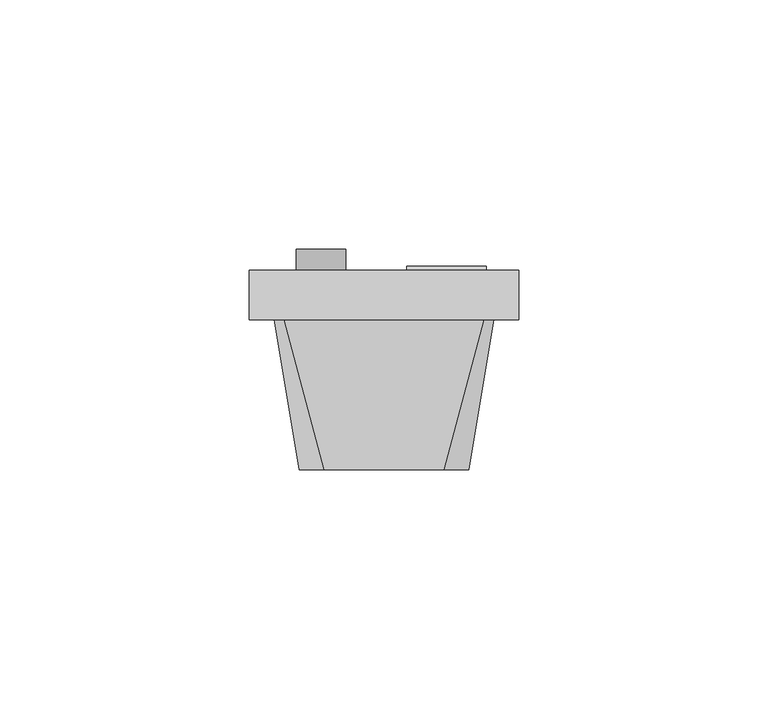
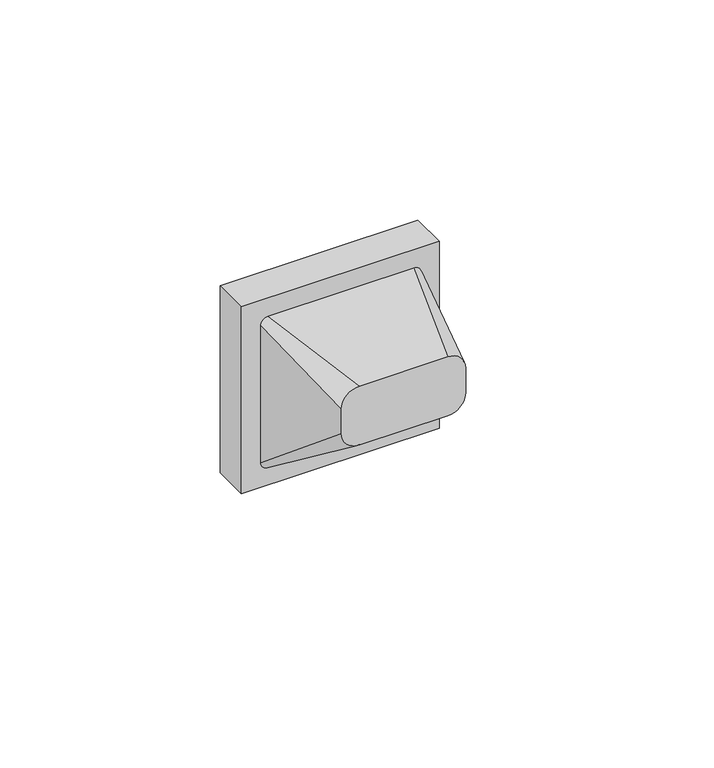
"""IFC4 building model written with IfcOpenShell, lengths in millimetres: proxy geometry, IEK_Brite_Механизм розетки мультимедийной : TV+RJ45-РТВ/РК12-БрА."""

from ifc_helpers import new_model, si_unit, frame, origin, place, context, project, spatial, polyline, circle_curve, outline, extrude, source, transform, mapped, element, save
from ifc_brep_helpers import plane_surface, cylinder_surface, revolved_surface, spline_surface, advanced_brep


def electrical_fixtures_01d7cf26(model_context):
    return source(origin(), model_context, "Body", "SolidModel", [
        extrude(outline(polyline([(0.0, -2.0472767), (0.0, 0.0), (15.9203522, 0.0), (15.9203522, -2.0472767), (0.0, -2.0472767)])), frame((4.6089657, 10.4018122, 8.6669379), z_axis=(0.0, 0.3420201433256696, 0.9396926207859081), x_axis=(1.0, 0.0, 0.0)), (0.0, 0.0, 1.0), 1.1350324),
        advanced_brep(
        [(-27.0, 10.0, 27.0), (27.0, 10.0, 27.0), (27.0, 10.0, -27.0), (-27.0, 10.0, -27.0), (-19.6284308, 10.0, 0.0), (-5.6284308, 10.0, 0.0), (22.4005633, 10.0, -10.479217), (22.4005633, 10.0, 10.625), (20.5293179, 10.0, 10.625), (4.6089657, 10.0, 10.625), (2.4005633, 10.0, 10.625), (2.4005633, 10.0, -10.479217), (-27.0, 0.0, 27.0), (-27.0, 0.0, -27.0), (27.0, 0.0, -27.0), (27.0, 0.0, 27.0), (-5.6284308, 0.0, 0.0), (-19.6284308, 0.0, 0.0), (22.4005633, 4.3684205, -4.8476375), (2.4005633, 4.3684205, -4.8476375), (4.6089657, 5.1767352, -2.626811), (20.5293179, 5.1767352, -2.626811), (20.5293179, 4.2370426, -2.2847909), (4.6089657, 4.2370426, -2.2847909), (4.6089657, 9.0603074, 10.9670201), (20.5293179, 9.0603074, 10.9670201)],
        [
            (0, 1),
            (1, 2),
            (2, 3),
            (3, 0),
            (4, 5, circle_curve(frame((-12.6284308, 10.0, 0.0), z_axis=(0.0, -1.0, 0.0), x_axis=(1.0, 0.0, 0.0)), 7.0)),
            (5, 4, circle_curve(frame((-12.6284308, 10.0, 0.0), z_axis=(0.0, -1.0, 0.0), x_axis=(1.0, 0.0, 0.0)), 7.0)),
            (6, 7),
            (7, 8),
            (8, 9),
            (9, 10),
            (10, 11),
            (11, 6),
            (12, 13),
            (13, 14),
            (14, 15),
            (15, 12),
            (16, 17, circle_curve(frame((-12.6284308, 0.0, 0.0), z_axis=(0.0, 1.0, 0.0), x_axis=(1.0, 0.0, 0.0)), 7.0)),
            (17, 16, circle_curve(frame((-12.6284308, 0.0, 0.0), z_axis=(0.0, 1.0, 0.0), x_axis=(1.0, 0.0, 0.0)), 7.0)),
            (3, 13),
            (12, 0),
            (2, 14),
            (1, 15),
            (16, 5),
            (4, 17),
            (18, 7),
            (6, 18),
            (19, 11),
            (10, 19),
            (19, 18),
            (9, 20),
            (20, 21),
            (21, 8),
            (22, 23),
            (23, 24),
            (24, 25),
            (25, 22),
            (25, 8),
            (21, 22),
            (24, 9),
            (23, 20),
        ],
        [
            plane_surface(frame((-27.0, 10.0, -27.0), z_axis=(0.0, 1.0, 0.0), x_axis=(0.0, 0.0, 1.0))),
            plane_surface(frame((-27.0, 0.0, -27.0), z_axis=(0.0, -1.0, 0.0), x_axis=(0.0, 0.0, -1.0))),
            plane_surface(frame((-27.0, 0.0, 27.0), z_axis=(-1.0, 0.0, 0.0), x_axis=(0.0, 1.0, 0.0))),
            plane_surface(frame((-27.0, 0.0, -27.0), z_axis=(0.0, 0.0, -1.0), x_axis=(0.0, 1.0, 0.0))),
            plane_surface(frame((27.0, 0.0, -27.0), z_axis=(1.0, 0.0, 0.0), x_axis=(0.0, 1.0, 0.0))),
            plane_surface(frame((27.0, 0.0, 27.0), z_axis=(0.0, 0.0, 1.0), x_axis=(0.0, 1.0, 0.0))),
            revolved_surface(polyline([(-5.6284308, 0.0, 0.0), (-5.6284308, 10.0, 0.0)]), (-12.6284308, 10.0, 0.0), (0.0, -1.0, 0.0)),
            plane_surface(frame((22.4005633, 4.3684205, -4.8476375), z_axis=(-1.0, 0.0, 0.0), x_axis=(0.0, 0.7071067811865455, -0.7071067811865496))),
            plane_surface(frame((2.4005633, 4.3684205, -4.8476375), z_axis=(1.0, 0.0, 0.0), x_axis=(0.0, -0.7071067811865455, 0.7071067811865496))),
            plane_surface(frame((22.4005633, 4.3684205, -4.8476375), z_axis=(0.0, 0.7071067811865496, 0.7071067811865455), x_axis=(-1.0, 0.0, 0.0))),
            plane_surface(frame((22.4005633, 10.0, 10.625), z_axis=(0.0, 0.9396926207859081, -0.3420201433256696), x_axis=(-1.0, 0.0, 0.0))),
            plane_surface(frame((20.5293179, 9.0603074, 10.9670201), z_axis=(0.0, 0.9396926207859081, -0.34202014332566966), x_axis=(0.0, 0.34202014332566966, 0.9396926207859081))),
            plane_surface(frame((20.5293179, 4.2370426, -2.2847909), z_axis=(-1.0, 0.0, 0.0), x_axis=(0.0, 0.9396926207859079, -0.3420201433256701))),
            plane_surface(frame((20.5293179, 9.0603074, 10.9670201), z_axis=(0.0, -0.3420201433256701, -0.9396926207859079), x_axis=(0.0, 0.9396926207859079, -0.3420201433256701))),
            plane_surface(frame((4.6089657, 9.0603074, 10.9670201), z_axis=(1.0, 0.0, 0.0), x_axis=(0.0, 0.939692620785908, -0.34202014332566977))),
            plane_surface(frame((4.6089657, 4.2370426, -2.2847909), z_axis=(0.0, 0.3420201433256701, 0.9396926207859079), x_axis=(0.0, 0.9396926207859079, -0.3420201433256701))),
        ],
        [
            (0, [[1, 2, 3, 4], [5, 6], [7, 8, 9, 10, 11, 12]]),
            (1, [[13, 14, 15, 16], [17, 18]]),
            (2, [[-4, 19, -13, 20]]),
            (3, [[-3, 21, -14, -19]]),
            (4, [[-2, 22, -15, -21]]),
            (5, [[-1, -20, -16, -22]]),
            (6, [[23, -5, 24, -17]]),
            (6, [[-23, -18, -24, -6]]),
            (7, [[25, -7, 26]]),
            (8, [[27, -11, 28]]),
            (9, [[-26, -12, -27, 29]]),
            (10, [[-25, -29, -28, -10, 30, 31, 32, -8]]),
            (11, [[33, 34, 35, 36]]),
            (12, [[-36, 37, -32, 38]]),
            (13, [[-35, 39, -9, -37]]),
            (14, [[-34, 40, -30, -39]]),
            (15, [[-33, -38, -31, -40]]),
        ],
    ),
        advanced_brep(
        [(-12.6284308, 13.2712404, 0.0), (-11.7257819, 13.2712404, 0.0), (-13.5310797, 13.2712404, 0.0), (-13.5310797, 0.0, 0.0), (-11.7257819, 0.0, 0.0), (-12.6284308, 0.0, 0.0)],
        [
            (0, 1),
            (1, 2, circle_curve(frame((-12.6284308, 13.2712404, 0.0), z_axis=(0.0, 1.0, 0.0), x_axis=(1.0, 0.0, 0.0)), 0.9026489)),
            (2, 0),
            (2, 1, circle_curve(frame((-12.6284308, 13.2712404, 0.0), z_axis=(0.0, 1.0, 0.0), x_axis=(1.0, 0.0, 0.0)), 0.9026489)),
            (3, 4, circle_curve(frame((-12.6284308, 0.0, 0.0), z_axis=(0.0, -1.0, 0.0), x_axis=(1.0, 0.0, 0.0)), 0.9026489)),
            (4, 5),
            (5, 3),
            (4, 3, circle_curve(frame((-12.6284308, 0.0, 0.0), z_axis=(0.0, -1.0, 0.0), x_axis=(1.0, 0.0, 0.0)), 0.9026489)),
            (1, 4),
            (3, 2),
        ],
        [
            plane_surface(frame((-12.6284308, 13.2712404, 0.0), z_axis=(0.0, 1.0, 0.0), x_axis=(1.0, 0.0, 0.0))),
            plane_surface(frame((-12.6284308, 0.0, 0.0), z_axis=(0.0, -1.0, 0.0), x_axis=(1.0, 0.0, 0.0))),
            cylinder_surface(frame((-12.6284308, 0.0, 0.0), z_axis=(0.0, 1.0, 0.0), x_axis=(1.0, 0.0, 0.0)), 0.9026489),
        ],
        [
            (0, [[1, 2, 3]]),
            (0, [[-3, 4, -1]]),
            (1, [[5, 6, 7]]),
            (1, [[8, -7, -6]]),
            (2, [[-2, 9, -5, 10]]),
            (2, [[-4, -10, -8, -9]]),
        ],
    ),
        advanced_brep(
        [(-17.6284308, 0.0, 0.0), (-7.6284308, 0.0, 0.0), (-8.6079002, 0.0, 0.0), (-16.6489614, 0.0, 0.0), (-8.6079002, 11.0, 0.0), (-16.6489614, 11.0, 0.0), (-8.6079002, 14.1430385, 0.0), (-16.6489614, 14.1430385, 0.0), (-7.6284308, 14.1430385, 0.0), (-17.6284308, 14.1430385, 0.0)],
        [
            (0, 1, circle_curve(frame((-12.6284308, 0.0, 0.0), z_axis=(0.0, -1.0, 0.0), x_axis=(1.0, 0.0, 0.0)), 5.0)),
            (1, 2),
            (2, 3, circle_curve(frame((-12.6284308, 0.0, 0.0), z_axis=(0.0, 1.0, 0.0), x_axis=(1.0, 0.0, 0.0)), 4.0205306)),
            (3, 0),
            (1, 0, circle_curve(frame((-12.6284308, 0.0, 0.0), z_axis=(0.0, -1.0, 0.0), x_axis=(1.0, 0.0, 0.0)), 5.0)),
            (3, 2, circle_curve(frame((-12.6284308, 0.0, 0.0), z_axis=(0.0, 1.0, 0.0), x_axis=(1.0, 0.0, 0.0)), 4.0205306)),
            (2, 4),
            (4, 5, circle_curve(frame((-12.6284308, 11.0, 0.0), z_axis=(0.0, 1.0, 0.0), x_axis=(1.0, 0.0, 0.0)), 4.0205306)),
            (5, 3),
            (5, 4, circle_curve(frame((-12.6284308, 11.0, 0.0), z_axis=(0.0, 1.0, 0.0), x_axis=(1.0, 0.0, 0.0)), 4.0205306)),
            (4, 6),
            (6, 7, circle_curve(frame((-12.6284308, 14.1430385, 0.0), z_axis=(0.0, 1.0, 0.0), x_axis=(1.0, 0.0, 0.0)), 4.0205306)),
            (7, 5),
            (7, 6, circle_curve(frame((-12.6284308, 14.1430385, 0.0), z_axis=(0.0, 1.0, 0.0), x_axis=(1.0, 0.0, 0.0)), 4.0205306)),
            (6, 8),
            (8, 9, circle_curve(frame((-12.6284308, 14.1430385, 0.0), z_axis=(0.0, 1.0, 0.0), x_axis=(1.0, 0.0, 0.0)), 5.0)),
            (9, 7),
            (9, 8, circle_curve(frame((-12.6284308, 14.1430385, 0.0), z_axis=(0.0, 1.0, 0.0), x_axis=(1.0, 0.0, 0.0)), 5.0)),
            (8, 1),
            (0, 9),
        ],
        [
            plane_surface(frame((-12.6284308, 0.0, 0.0), z_axis=(0.0, -1.0, 0.0), x_axis=(1.0, 0.0, 0.0))),
            revolved_surface(polyline([(-8.6079002, 11.0, 0.0), (-8.6079002, 0.0, 0.0)]), (-12.6284308, 10.0, 0.0), (0.0, 1.0, 0.0)),
            revolved_surface(polyline([(-8.6079002, 14.1430385, 0.0), (-8.6079002, 11.0, 0.0)]), (-12.6284308, 10.0, 0.0), (0.0, 1.0, 0.0)),
            plane_surface(frame((-12.6284308, 14.1430385, 0.0), z_axis=(0.0, 1.0, 0.0), x_axis=(1.0, 0.0, 0.0))),
            cylinder_surface(frame((-12.6284308, 10.0, 0.0), z_axis=(0.0, 1.0, 0.0), x_axis=(1.0, 0.0, 0.0)), 5.0),
        ],
        [
            (0, [[1, 2, 3, 4]]),
            (0, [[5, -4, 6, -2]]),
            (1, [[-3, 7, 8, 9]]),
            (1, [[-6, -9, 10, -7]]),
            (2, [[-8, 11, 12, 13]]),
            (2, [[-10, -13, 14, -11]]),
            (3, [[-12, 15, 16, 17]]),
            (3, [[-14, -17, 18, -15]]),
            (4, [[-16, 19, -1, 20]]),
            (4, [[-18, -20, -5, -19]]),
        ],
    ),
        advanced_brep(
        [(-12.0, -30.0, 17.0), (-17.0, -30.0, 12.0), (-17.0, -30.0, 5.0), (-12.0, -30.0, 0.0), (12.0, -30.0, 0.0), (17.0, -30.0, 5.0), (17.0, -30.0, 12.0), (12.0, -30.0, 17.0), (-20.0, 0.0, 22.0), (20.0, 0.0, 22.0), (22.0, 0.0, 20.0), (22.0, 0.0, -20.0), (20.0, 0.0, -22.0), (-20.0, 0.0, -22.0), (-22.0, 0.0, -20.0), (-22.0, 0.0, 20.0)],
        [
            (0, 1, circle_curve(frame((-12.0, -30.0, 12.0), z_axis=(0.0, -1.0, 0.0), x_axis=(1.0, 0.0, 0.0)), 5.0)),
            (1, 2),
            (2, 3, circle_curve(frame((-12.0, -30.0, 5.0), z_axis=(0.0, -1.0, 0.0), x_axis=(1.0, 0.0, 0.0)), 5.0)),
            (3, 4),
            (4, 5, circle_curve(frame((12.0, -30.0, 5.0), z_axis=(0.0, -1.0, 0.0), x_axis=(1.0, 0.0, 0.0)), 5.0)),
            (5, 6),
            (6, 7, circle_curve(frame((12.0, -30.0, 12.0), z_axis=(0.0, -1.0, 0.0), x_axis=(1.0, 0.0, 0.0)), 5.0)),
            (7, 0),
            (8, 9),
            (9, 10, circle_curve(frame((20.0, 0.0, 20.0), z_axis=(0.0, 1.0, 0.0), x_axis=(1.0, 0.0, 0.0)), 2.0)),
            (10, 11),
            (11, 12, circle_curve(frame((20.0, 0.0, -20.0), z_axis=(0.0, 1.0, 0.0), x_axis=(1.0, 0.0, 0.0)), 2.0)),
            (12, 13),
            (13, 14, circle_curve(frame((-20.0, 0.0, -20.0), z_axis=(0.0, 1.0, 0.0), x_axis=(1.0, 0.0, 0.0)), 2.0)),
            (14, 15),
            (15, 8, circle_curve(frame((-20.0, 0.0, 20.0), z_axis=(0.0, 1.0, 0.0), x_axis=(1.0, 0.0, 0.0)), 2.0)),
            (8, 0),
            (7, 9),
            (6, 10),
            (5, 11),
            (4, 12),
            (3, 13),
            (2, 14),
            (1, 15),
        ],
        [
            plane_surface(frame((0.0, -30.0, 8.5), z_axis=(0.0, -1.0, 0.0), x_axis=(-1.0, 0.0, 0.0))),
            plane_surface(frame((0.0, 0.0, 0.0), z_axis=(0.0, 1.0, 0.0), x_axis=(-1.0, 0.0, 0.0))),
            plane_surface(frame((0.0, 0.0, 22.0), z_axis=(0.0, -0.16439898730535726, 0.9863939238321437), x_axis=(-1.0, 0.0, 0.0))),
            spline_surface(2, 1, [[(22.0, 0.0, 20.0), (17.0, -30.0, 12.0)], [(22.0, 0.0, 22.0), (17.0, -30.0, 17.0)], [(20.0, 0.0, 22.0), (12.0, -30.0, 17.0)]], [3, 3], [2, 2], [0.0, 1.0], [0.0, 1.0], weights=[[1.0, 1.0], [0.7071067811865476, 0.7071067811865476], [1.0, 1.0]]),
            plane_surface(frame((22.0, 0.0, 0.0), z_axis=(0.9863939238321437, -0.1643989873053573, 0.0), x_axis=(0.0, 0.0, 1.0))),
            spline_surface(2, 1, [[(20.0, 0.0, -22.0), (12.0, -30.0, 0.0)], [(22.0, 0.0, -22.0), (17.0, -30.0, 0.0)], [(22.0, 0.0, -20.0), (17.0, -30.0, 5.0)]], [3, 3], [2, 2], [0.0, 1.0], [0.0, 1.0], weights=[[1.0, 1.0], [0.7071067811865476, 0.7071067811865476], [1.0, 1.0]]),
            plane_surface(frame((0.0, 0.0, -22.0), z_axis=(0.0, -0.591363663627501, -0.8064049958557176), x_axis=(1.0, 0.0, 0.0))),
            spline_surface(2, 1, [[(-22.0, 0.0, -20.0), (-17.0, -30.0, 5.0)], [(-22.0, 0.0, -22.0), (-17.0, -30.0, 0.0)], [(-20.0, 0.0, -22.0), (-12.0, -30.0, 0.0)]], [3, 3], [2, 2], [0.0, 1.0], [0.0, 1.0], weights=[[1.0, 1.0], [0.7071067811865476, 0.7071067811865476], [1.0, 1.0]]),
            plane_surface(frame((-22.0, 0.0, 0.0), z_axis=(-0.9863939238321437, -0.1643989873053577, 0.0), x_axis=(0.0, 0.0, -1.0))),
            spline_surface(2, 1, [[(-20.0, 0.0, 22.0), (-12.0, -30.0, 17.0)], [(-22.0, 0.0, 22.0), (-17.0, -30.0, 17.0)], [(-22.0, 0.0, 20.0), (-17.0, -30.0, 12.0)]], [3, 3], [2, 2], [0.0, 1.0], [0.0, 1.0], weights=[[1.0, 1.0], [0.7071067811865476, 0.7071067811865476], [1.0, 1.0]]),
        ],
        [
            (0, [[1, 2, 3, 4, 5, 6, 7, 8]]),
            (1, [[9, 10, 11, 12, 13, 14, 15, 16]]),
            (2, [[-9, 17, -8, 18]]),
            (3, [[-10, -18, -7, 19]]),
            (4, [[-11, -19, -6, 20]]),
            (5, [[-12, -20, -5, 21]]),
            (6, [[-13, -21, -4, 22]]),
            (7, [[-14, -22, -3, 23]]),
            (8, [[-15, -23, -2, 24]]),
            (9, [[-16, -24, -1, -17]]),
        ],
    ),
    ])


if __name__ == "__main__":
    model = new_model("IFC4")
    model_context = context("Model", 3, world=origin())
    ifc_project = project(units=[si_unit("LENGTHUNIT", "METRE", prefix="MILLI")], contexts=[model_context])
    site = spatial("IfcSite", under=ifc_project)
    building = spatial("IfcBuilding", under=site)
    placement = place(None, origin())
    electrical_fixtures_shape = electrical_fixtures_01d7cf26(model_context)
    element("IfcBuildingElementProxy", 1, Name="IEK_Brite_Механизм розетки мультимедийной : TV+RJ45-РТВ/РК12-БрА", ObjectType="IEK_Brite_Механизм розетки мультимедийной : TV+RJ45-РТВ/РК12-БрА", at=placement, inside=building, context=model_context, shape_type="MappedRepresentation", body=[
        mapped(electrical_fixtures_shape, transform((0.0, 0.0, 0.0), x_axis=(1.0, 0.0, 0.0), y_axis=(0.0, 1.0, 0.0), z_axis=(0.0, 0.0, 1.0))),
    ])
    save(model, "model.ifc")
